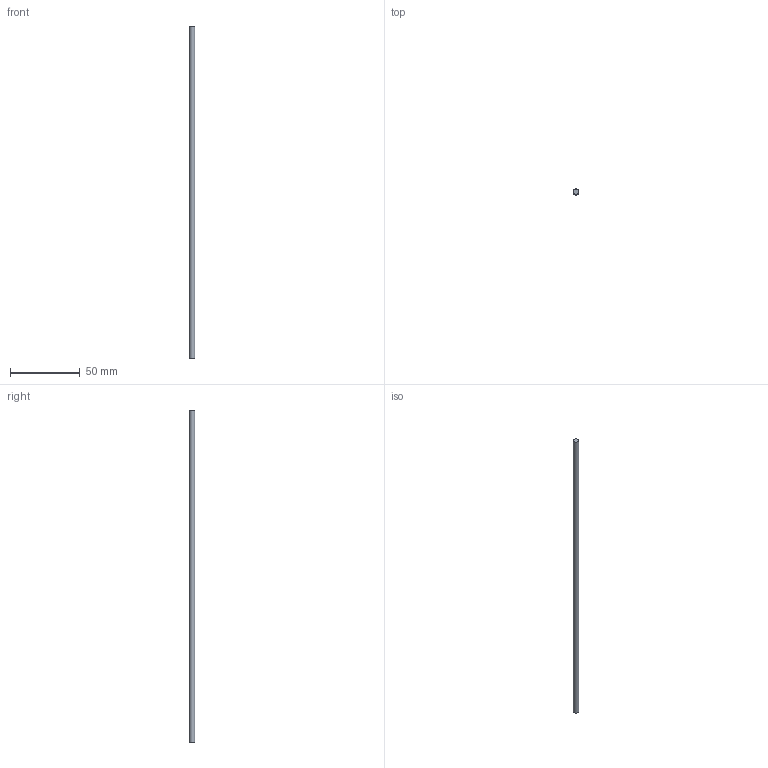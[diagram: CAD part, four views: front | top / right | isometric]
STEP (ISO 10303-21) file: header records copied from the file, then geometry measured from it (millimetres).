
FILE_DESCRIPTION(('Open CASCADE Model'),'2;1');
FILE_NAME('Open CASCADE Shape Model','2026-10-15T02:45:44',('Author'),( 'Open CASCADE'),'Open CASCADE STEP processor 7.9','Open CASCADE 7.9' ,'Unknown');
FILE_SCHEMA(('AUTOMOTIVE_DESIGN { 1 0 10303 214 1 1 1 1 }'));
Length unit declared in the file: millimetre
Products named in the file (1): Open CASCADE STEP translator 7.9 14
Bounding box: 4 x 4 x 238 mm (x, y, z)
Volume: 2990.8 mm3; surface area: 3015.9 mm2
Topology: 1 solids, 1 shells, 3 faces, 3 edges, 2 vertices
Faces by surface type: plane 2, cylinder 1
Full cylindrical faces by diameter (mm): 4 x1
Entity records: 108 total; most frequent: DIRECTION 19, CARTESIAN_POINT 15, AXIS2_PLACEMENT_3D 6, ORIENTED_EDGE 6, PCURVE 6, DEFINITIONAL_REPRESENTATION 6, LINE 5, VECTOR 5
